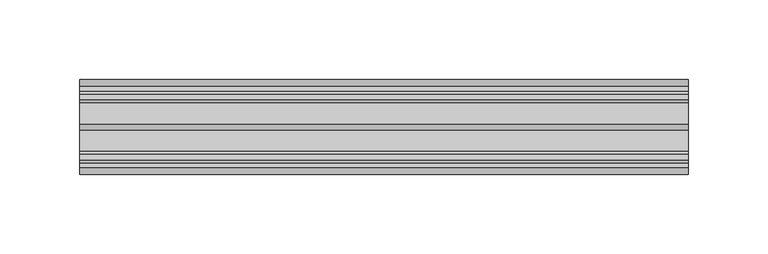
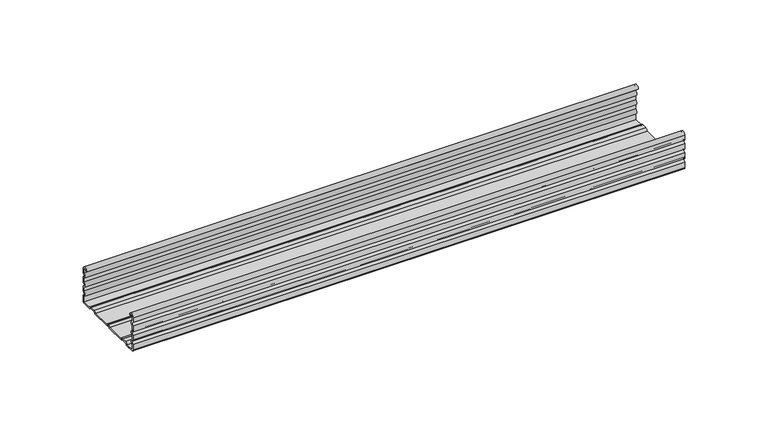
"""IFC4 building model written with IfcOpenShell, lengths in millimetres: proxy geometry, КНАУФ_Профильl ПП 60x27 : КНАУФ_Профильl ПП 60x27."""

from ifc_helpers import new_model, si_unit, point, frame, frame_2d, origin, origin_2d, place, context, project, spatial, polyline, circle_curve, trimmed, segment, composite_curve, outline, extrude, source, transform, mapped, element, save


def mechanical_equipment_f8a1cab5(model_context):
    return source(origin(), model_context, "Body", "SweptSolid", [
        extrude(outline(composite_curve([segment(polyline([(26.6623525, 24.93), (25.8623525, 24.93)]), True, "CONTINUOUS"), segment(trimmed(circle_curve(frame_2d((27.9311762, 24.93)), 2.0688238), [point((25.8623525, 24.93))], [point((30.0, 24.93))], False, "CARTESIAN"), True, "CONTINUOUS"), segment(polyline([(30.0, 24.93), (30.0, 21.5430149)]), True, "CONTINUOUS"), segment(trimmed(circle_curve(frame_2d((30.0, 20.25)), 1.2930149), [point((30.0, 21.5430149))], [point((30.0, 18.9569851))], True, "CARTESIAN"), True, "CONTINUOUS"), segment(polyline([(30.0, 18.9569851), (30.0, 14.7930149)]), True, "CONTINUOUS"), segment(trimmed(circle_curve(frame_2d((30.0, 13.5)), 1.2930149), [point((30.0, 14.7930149))], [point((30.0, 12.2069851))], True, "CARTESIAN"), True, "CONTINUOUS"), segment(polyline([(30.0, 12.2069851), (30.0, 8.0430149)]), True, "CONTINUOUS"), segment(trimmed(circle_curve(frame_2d((30.0, 6.75)), 1.2930149), [point((30.0, 8.0430149))], [point((30.0, 5.4569851))], True, "CARTESIAN"), True, "CONTINUOUS"), segment(polyline([(30.0, 5.4569851), (30.0, 1.2930149)]), True, "CONTINUOUS"), segment(trimmed(circle_curve(frame_2d((28.7069851, 1.2930149)), 1.2930149), [point((30.0, 1.2930149))], [point((28.7069851, 0.0))], False, "CARTESIAN"), True, "CONTINUOUS"), segment(polyline([(28.7069851, 0.0), (22.0489776, 0.0)]), True, "CONTINUOUS"), segment(trimmed(circle_curve(frame_2d((20.7668677, -0.1675758)), 1.2930149), [point((22.0489776, 0.0))], [point((20.7668677, 1.1254391))], True, "CARTESIAN"), True, "CONTINUOUS"), segment(polyline([(20.7668677, 1.1254391), (17.1471022, 1.1254391)]), True, "CONTINUOUS"), segment(trimmed(circle_curve(frame_2d((17.1471022, -0.1675758)), 1.2930149), [point((17.1471022, 1.1254391))], [point((15.8649924, 0.0))], True, "CARTESIAN"), True, "CONTINUOUS"), segment(polyline([(15.8649924, 0.0), (1.2930149, 0.0)]), True, "CONTINUOUS"), segment(trimmed(circle_curve(origin_2d(), 1.2930149), [point((1.2930149, 0.0))], [point((-1.2930149, 0.0))], True, "CARTESIAN"), True, "CONTINUOUS"), segment(polyline([(-1.2930149, 0.0), (-15.772435, 0.0)]), True, "CONTINUOUS"), segment(trimmed(circle_curve(frame_2d((-17.1471022, -0.2768239)), 1.402263), [point((-15.772435, 0.0))], [point((-17.1471022, 1.1254391))], True, "CARTESIAN"), True, "CONTINUOUS"), segment(polyline([(-17.1471022, 1.1254391), (-20.7668677, 1.1254391)]), True, "CONTINUOUS"), segment(trimmed(circle_curve(frame_2d((-20.7668677, -0.1675758)), 1.2930149), [point((-20.7668677, 1.1254391))], [point((-22.0489776, 0.0))], True, "CARTESIAN"), True, "CONTINUOUS"), segment(polyline([(-22.0489776, 0.0), (-28.7069851, 0.0)]), True, "CONTINUOUS"), segment(trimmed(circle_curve(frame_2d((-28.7069851, 1.2930149)), 1.2930149), [point((-28.7069851, 0.0))], [point((-30.0, 1.2930149))], False, "CARTESIAN"), True, "CONTINUOUS"), segment(polyline([(-30.0, 1.2930149), (-30.0, 5.4569851)]), True, "CONTINUOUS"), segment(trimmed(circle_curve(frame_2d((-30.0, 6.75)), 1.2930149), [point((-30.0, 5.4569851))], [point((-30.0, 8.0430149))], True, "CARTESIAN"), True, "CONTINUOUS"), segment(polyline([(-30.0, 8.0430149), (-30.0, 12.2069851)]), True, "CONTINUOUS"), segment(trimmed(circle_curve(frame_2d((-30.0, 13.5)), 1.2930149), [point((-30.0, 12.2069851))], [point((-30.0, 14.7930149))], True, "CARTESIAN"), True, "CONTINUOUS"), segment(polyline([(-30.0, 14.7930149), (-30.0, 18.9569851)]), True, "CONTINUOUS"), segment(trimmed(circle_curve(frame_2d((-30.0, 20.25)), 1.2930149), [point((-30.0, 18.9569851))], [point((-30.0, 21.5430149))], True, "CARTESIAN"), True, "CONTINUOUS"), segment(polyline([(-30.0, 21.5430149), (-30.0, 24.9997726)]), True, "CONTINUOUS"), segment(trimmed(circle_curve(frame_2d((-27.9311762, 24.93)), 2.07), [point((-30.0, 24.9997726))], [point((-25.8611762, 24.93))], False, "CARTESIAN"), True, "CONTINUOUS"), segment(polyline([(-25.8611762, 24.93), (-26.6611762, 24.93)]), True, "CONTINUOUS"), segment(trimmed(circle_curve(frame_2d((-27.9311762, 24.93)), 1.27), [point((-26.6611762, 24.93))], [point((-29.2, 24.9846466))], True, "CARTESIAN"), True, "CONTINUOUS"), segment(polyline([(-29.2, 24.9846466), (-29.2, 22.1840918)]), True, "CONTINUOUS"), segment(trimmed(circle_curve(frame_2d((-30.0, 20.25)), 2.0930149), [point((-29.2, 22.1840918))], [point((-29.2, 18.3159082))], False, "CARTESIAN"), True, "CONTINUOUS"), segment(polyline([(-29.2, 18.3159082), (-29.2, 15.4340918)]), True, "CONTINUOUS"), segment(trimmed(circle_curve(frame_2d((-30.0, 13.5)), 2.0930149), [point((-29.2, 15.4340918))], [point((-29.2, 11.5659082))], False, "CARTESIAN"), True, "CONTINUOUS"), segment(polyline([(-29.2, 11.5659082), (-29.2, 8.6840918)]), True, "CONTINUOUS"), segment(trimmed(circle_curve(frame_2d((-30.0, 6.75)), 2.0930149), [point((-29.2, 8.6840918))], [point((-29.2, 4.8159082))], False, "CARTESIAN"), True, "CONTINUOUS"), segment(polyline([(-29.2, 4.8159082), (-29.2, 0.8), (-22.6228064, 0.8)]), True, "CONTINUOUS"), segment(trimmed(circle_curve(frame_2d((-20.7668677, -0.1675758)), 2.0930149), [point((-22.6228064, 0.8))], [point((-20.7668677, 1.9254391))], False, "CARTESIAN"), True, "CONTINUOUS"), segment(polyline([(-20.7668677, 1.9254391), (-17.1471022, 1.9254391)]), True, "CONTINUOUS"), segment(trimmed(circle_curve(frame_2d((-17.1471022, -0.2768239)), 2.202263), [point((-17.1471022, 1.9254391))], [point((-15.2260576, 0.8))], False, "CARTESIAN"), True, "CONTINUOUS"), segment(polyline([(-15.2260576, 0.8), (-1.9340918, 0.8)]), True, "CONTINUOUS"), segment(trimmed(circle_curve(origin_2d(), 2.0930149), [point((-1.9340918, 0.8))], [point((1.9340918, 0.8))], False, "CARTESIAN"), True, "CONTINUOUS"), segment(polyline([(1.9340918, 0.8), (15.2911636, 0.8)]), True, "CONTINUOUS"), segment(trimmed(circle_curve(frame_2d((17.1471022, -0.1675758)), 2.0930149), [point((15.2911636, 0.8))], [point((17.1471022, 1.9254391))], False, "CARTESIAN"), True, "CONTINUOUS"), segment(polyline([(17.1471022, 1.9254391), (20.7668677, 1.9254391)]), True, "CONTINUOUS"), segment(trimmed(circle_curve(frame_2d((20.7668677, -0.1675758)), 2.0930149), [point((20.7668677, 1.9254391))], [point((22.6228064, 0.8))], False, "CARTESIAN"), True, "CONTINUOUS"), segment(polyline([(22.6228064, 0.8), (29.2, 0.8), (29.2, 4.8159082)]), True, "CONTINUOUS"), segment(trimmed(circle_curve(frame_2d((30.0, 6.75)), 2.0930149), [point((29.2, 4.8159082))], [point((29.2, 8.6840918))], False, "CARTESIAN"), True, "CONTINUOUS"), segment(polyline([(29.2, 8.6840918), (29.2, 11.5659082)]), True, "CONTINUOUS"), segment(trimmed(circle_curve(frame_2d((30.0, 13.5)), 2.0930149), [point((29.2, 11.5659082))], [point((29.2, 15.4340918))], False, "CARTESIAN"), True, "CONTINUOUS"), segment(polyline([(29.2, 15.4340918), (29.2, 18.3159082)]), True, "CONTINUOUS"), segment(trimmed(circle_curve(frame_2d((30.0, 20.25)), 2.0930149), [point((29.2, 18.3159082))], [point((29.2, 22.1840918))], False, "CARTESIAN"), True, "CONTINUOUS"), segment(polyline([(29.2, 22.1840918), (29.2, 24.93)]), True, "CONTINUOUS"), segment(trimmed(circle_curve(frame_2d((27.9311762, 24.93)), 1.2688238), [point((29.2, 24.93))], [point((26.6623525, 24.93))], True, "CARTESIAN"), True, "CONTINUOUS")], self_intersect=False)), frame((0.0, 0.0, 0.0), z_axis=(1.0, 0.0, 0.0), x_axis=(0.0, 1.0, 0.0)), (0.0, 0.0, 1.0), 383.0),
    ])


if __name__ == "__main__":
    model = new_model("IFC4")
    model_context = context("Model", 3, world=origin())
    ifc_project = project(units=[si_unit("LENGTHUNIT", "METRE", prefix="MILLI")], contexts=[model_context])
    site = spatial("IfcSite", under=ifc_project)
    building = spatial("IfcBuilding", under=site)
    placement = place(None, origin())
    mechanical_equipment_shape = mechanical_equipment_f8a1cab5(model_context)
    element("IfcBuildingElementProxy", 1, Name="КНАУФ_Профильl ПП 60x27 : КНАУФ_Профильl ПП 60x27", ObjectType="КНАУФ_Профильl ПП 60x27 : КНАУФ_Профильl ПП 60x27", at=placement, inside=building, context=model_context, shape_type="MappedRepresentation", body=[
        mapped(mechanical_equipment_shape, transform((0.0, 0.0, 0.0), x_axis=(1.0, 0.0, 0.0), y_axis=(0.0, 1.0, 0.0), z_axis=(0.0, 0.0, 1.0))),
    ])
    save(model, "model.ifc")
